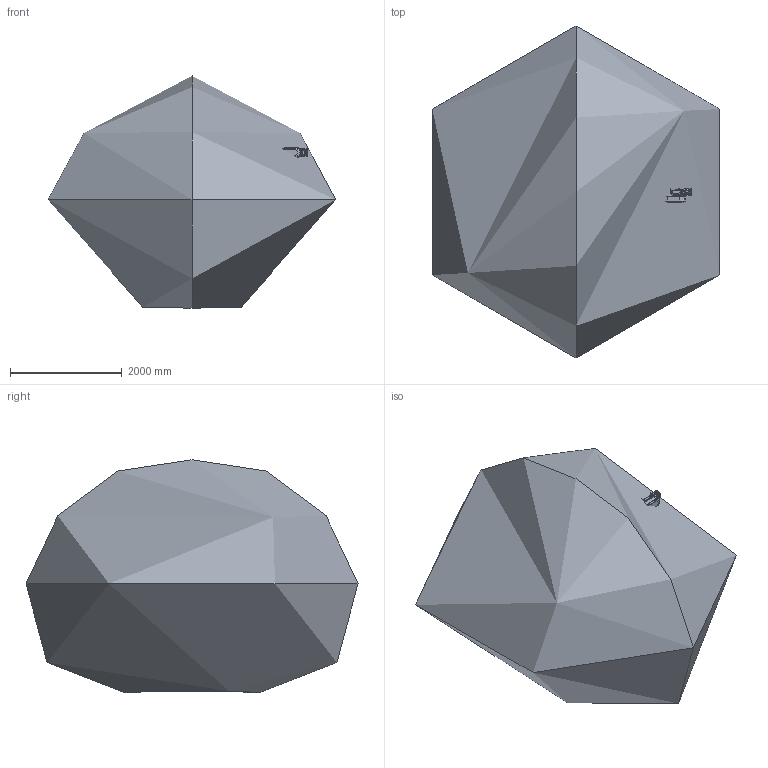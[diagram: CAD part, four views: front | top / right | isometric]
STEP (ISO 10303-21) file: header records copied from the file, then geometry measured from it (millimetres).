
FILE_DESCRIPTION (( 'STEP AP214' ), '1' );
FILE_NAME ('阹陎暱R3000-100-E 俋窒耀倰.STEP', '2020-12-01T09:37:58', ( '' ), ( '' ), 'SwSTEP 2.0', 'SolidWorks 2016', '' );
FILE_SCHEMA (( 'AUTOMOTIVE_DESIGN' ));
Products named in the file (15): 阹陎暱R3000-100-E-12_1; 阹陎暱R3000-100-E-09_1; 阹陎暱R3000-100-E-04_1; 阹陎暱R3000-100-E-03_1; 阹陎暱R3000-100-E-11_1; 阹陎暱R3000-100-E-10_1; 阹陎暱R3000-100-E 俋窒耀倰; 阹陎暱R3000-100-E-06_1; 阹陎暱R3000-100-E-07_1; 阹陎暱R3000-100-E-15_1; 阹陎暱R3000-100-E-05_1; 阹陎暱R3000-100-E-02_1; 阹陎暱R3000-100-E-08_1; 阹陎暱R3000-100-E-01_1; 阹陎暱R3000-100-E-14_1
Assembly tree (14 placements, depth 2):
  阹陎暱R3000-100-E 俋窒耀倰
    阹陎暱R3000-100-E-01_1
    阹陎暱R3000-100-E-02_1
    阹陎暱R3000-100-E-03_1
    阹陎暱R3000-100-E-04_1
    阹陎暱R3000-100-E-05_1
    阹陎暱R3000-100-E-07_1
    阹陎暱R3000-100-E-06_1
    阹陎暱R3000-100-E-08_1
    阹陎暱R3000-100-E-15_1
    阹陎暱R3000-100-E-11_1
    阹陎暱R3000-100-E-10_1
    阹陎暱R3000-100-E-09_1
    阹陎暱R3000-100-E-12_1
    阹陎暱R3000-100-E-14_1
Bounding box: 5151.07 x 5947.94 x 4162.76 mm (x, y, z)
Topology: 1 solids, 499 shells, 9431 faces, 29332 edges, 20079 vertices
Faces by surface type: cylinder 3671, plane 2970, bspline 1798, cone 486, torus 474, sphere 32
Entity records: 602814 total; most frequent: CARTESIAN_POINT 363632, ORIENTED_EDGE 49718, DIRECTION 43172, EDGE_CURVE 29132, VERTEX_POINT 20070, AXIS2_PLACEMENT_3D 15201, LINE 12770, VECTOR 12770
